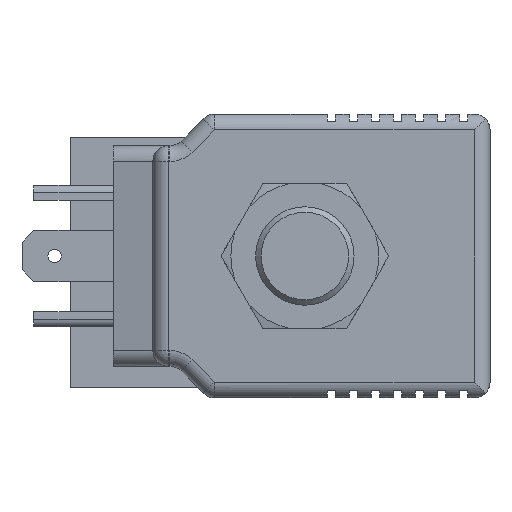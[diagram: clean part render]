
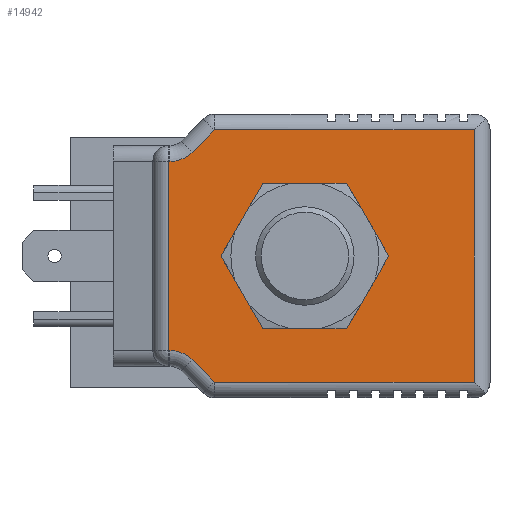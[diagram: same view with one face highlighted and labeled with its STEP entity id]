
A CAD part, front view. The second image highlights one B-rep face of the part: STEP entity #14942.
In plain terms, the highlighted planar face has unit normal (0, -1, 0) as drawn and (0, 0, 1) by its records, which use the part's own axes.
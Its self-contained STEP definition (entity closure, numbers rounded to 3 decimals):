
#821=LINE('',#21525,#1786);
#822=LINE('',#21532,#1787);
#823=LINE('',#21539,#1788);
#861=LINE('',#21644,#1826);
#862=LINE('',#21647,#1827);
#863=LINE('',#21649,#1828);
#864=LINE('',#21651,#1829);
#865=LINE('',#21654,#1830);
#1786=VECTOR('',#18092,1000.);
#1787=VECTOR('',#18103,1000.);
#1788=VECTOR('',#18114,1000.);
#1826=VECTOR('',#18226,1000.);
#1827=VECTOR('',#18227,1000.);
#1828=VECTOR('',#18228,1000.);
#1829=VECTOR('',#18229,1000.);
#1830=VECTOR('',#18232,1000.);
#2520=PLANE('',#15819);
#4748=ORIENTED_EDGE('',*,*,#6749,.T.);
#4749=ORIENTED_EDGE('',*,*,#6750,.T.);
#4750=ORIENTED_EDGE('',*,*,#6751,.T.);
#4751=ORIENTED_EDGE('',*,*,#6752,.T.);
#4752=ORIENTED_EDGE('',*,*,#6753,.T.);
#4753=ORIENTED_EDGE('',*,*,#6748,.F.);
#4754=ORIENTED_EDGE('',*,*,#6689,.T.);
#4755=ORIENTED_EDGE('',*,*,#6693,.T.);
#4756=ORIENTED_EDGE('',*,*,#6697,.T.);
#4757=ORIENTED_EDGE('',*,*,#6754,.F.);
#4758=ORIENTED_EDGE('',*,*,#6755,.T.);
#6689=EDGE_CURVE('',#7900,#7901,#821,.T.);
#6693=EDGE_CURVE('',#7901,#7902,#822,.T.);
#6697=EDGE_CURVE('',#7902,#7903,#823,.T.);
#6748=EDGE_CURVE('',#7900,#7932,#8468,.T.);
#6749=EDGE_CURVE('',#7933,#7933,#8469,.T.);
#6750=EDGE_CURVE('',#7934,#7935,#861,.T.);
#6751=EDGE_CURVE('',#7935,#7936,#862,.T.);
#6752=EDGE_CURVE('',#7936,#7937,#863,.T.);
#6753=EDGE_CURVE('',#7937,#7932,#864,.T.);
#6754=EDGE_CURVE('',#7938,#7903,#8470,.T.);
#6755=EDGE_CURVE('',#7938,#7934,#865,.T.);
#7900=VERTEX_POINT('',#21522);
#7901=VERTEX_POINT('',#21524);
#7902=VERTEX_POINT('',#21531);
#7903=VERTEX_POINT('',#21538);
#7932=VERTEX_POINT('',#21639);
#7933=VERTEX_POINT('',#21643);
#7934=VERTEX_POINT('',#21645);
#7935=VERTEX_POINT('',#21646);
#7936=VERTEX_POINT('',#21648);
#7937=VERTEX_POINT('',#21650);
#7938=VERTEX_POINT('',#21653);
#8468=CIRCLE('',#15818,4.);
#8469=CIRCLE('',#15820,8.5);
#8470=CIRCLE('',#15821,4.);
#9185=EDGE_LOOP('',(#4748));
#9186=EDGE_LOOP('',(#4749,#4750,#4751,#4752,#4753,#4754,#4755,#4756,#4757,
#4758));
#10014=FACE_BOUND('',#9185,.T.);
#10015=FACE_BOUND('',#9186,.T.);
#14942=ADVANCED_FACE('',(#10014,#10015),#2520,.T.);
#15818=AXIS2_PLACEMENT_3D('',#21640,#18220,#18221);
#15819=AXIS2_PLACEMENT_3D('',#21641,#18222,#18223);
#15820=AXIS2_PLACEMENT_3D('',#21642,#18224,#18225);
#15821=AXIS2_PLACEMENT_3D('',#21652,#18230,#18231);
#18092=DIRECTION('',(1.,0.,0.));
#18103=DIRECTION('',(0.,1.,0.));
#18114=DIRECTION('',(-1.,0.,0.));
#18220=DIRECTION('',(0.,0.,1.));
#18221=DIRECTION('',(1.,0.,0.));
#18222=DIRECTION('',(0.,0.,1.));
#18223=DIRECTION('',(1.,0.,0.));
#18224=DIRECTION('',(0.,0.,-1.));
#18225=DIRECTION('',(0.,-1.,0.));
#18226=DIRECTION('',(-1.,0.,0.));
#18227=DIRECTION('',(0.,-1.,0.));
#18228=DIRECTION('',(1.,0.,0.));
#18229=DIRECTION('',(0.707,0.707,0.));
#18230=DIRECTION('',(0.,0.,1.));
#18231=DIRECTION('',(1.,0.,0.));
#18232=DIRECTION('',(-0.707,0.707,0.));
#21522=CARTESIAN_POINT('',(22.143,-12.,38.5));
#21524=CARTESIAN_POINT('',(22.314,-12.,38.5));
#21525=CARTESIAN_POINT('',(24.314,-12.,38.5));
#21531=CARTESIAN_POINT('',(22.314,12.,38.5));
#21532=CARTESIAN_POINT('',(22.314,16.,38.5));
#21538=CARTESIAN_POINT('',(22.143,12.,38.5));
#21539=CARTESIAN_POINT('',(22.143,12.,38.5));
#21639=CARTESIAN_POINT('',(19.314,-13.172,38.5));
#21640=CARTESIAN_POINT('',(22.143,-16.,38.5));
#21641=CARTESIAN_POINT('',(-16.486,16.,38.5));
#21642=CARTESIAN_POINT('',(5.014,0.,38.5));
#21643=CARTESIAN_POINT('',(5.014,-8.5,38.5));
#21644=CARTESIAN_POINT('',(2.17,16.,38.5));
#21645=CARTESIAN_POINT('',(16.486,16.,38.5));
#21646=CARTESIAN_POINT('',(-16.486,16.,38.5));
#21647=CARTESIAN_POINT('',(-16.486,-16.,38.5));
#21648=CARTESIAN_POINT('',(-16.486,-16.,38.5));
#21649=CARTESIAN_POINT('',(16.486,-16.,38.5));
#21650=CARTESIAN_POINT('',(16.486,-16.,38.5));
#21651=CARTESIAN_POINT('',(19.314,-13.172,38.5));
#21652=CARTESIAN_POINT('',(22.143,16.,38.5));
#21653=CARTESIAN_POINT('',(19.314,13.172,38.5));
#21654=CARTESIAN_POINT('',(16.486,16.,38.5));
